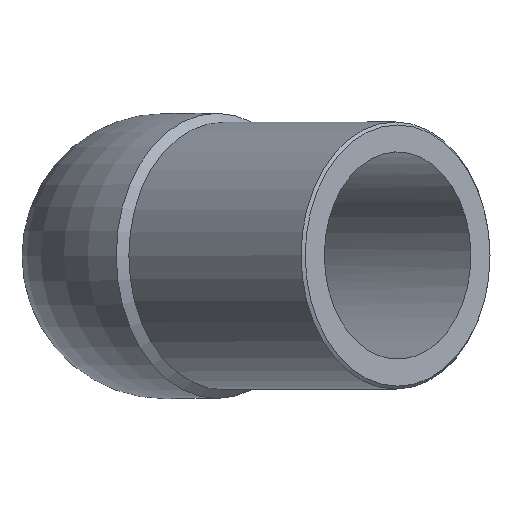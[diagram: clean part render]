
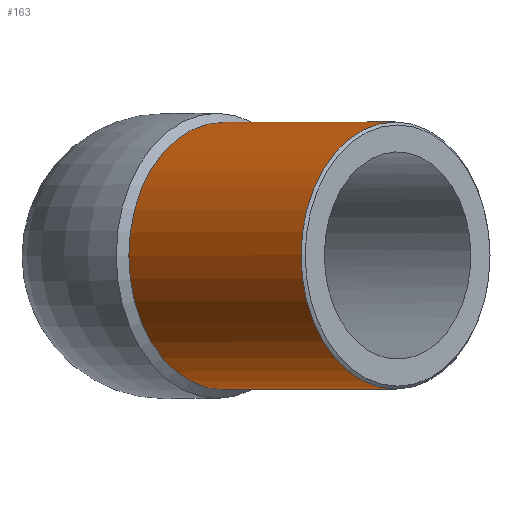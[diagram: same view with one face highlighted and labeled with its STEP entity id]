
A CAD part, top view. The second image highlights one B-rep face of the part: STEP entity #163.
In plain terms, the highlighted cylindrical face has radius 45 mm (diameter 90 mm), a full revolution.
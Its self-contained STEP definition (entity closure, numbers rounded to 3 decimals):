
#29=CYLINDRICAL_SURFACE('',#190,45.);
#35=ORIENTED_EDGE('',*,*,#69,.T.);
#36=ORIENTED_EDGE('',*,*,#67,.F.);
#67=EDGE_CURVE('',#84,#84,#100,.T.);
#69=EDGE_CURVE('',#86,#86,#102,.T.);
#84=VERTEX_POINT('',#267);
#86=VERTEX_POINT('',#272);
#100=CIRCLE('',#188,45.);
#102=CIRCLE('',#191,45.);
#114=EDGE_LOOP('',(#35));
#115=EDGE_LOOP('',(#36));
#137=FACE_BOUND('',#114,.T.);
#138=FACE_BOUND('',#115,.T.);
#163=ADVANCED_FACE('',(#137,#138),#29,.T.);
#188=AXIS2_PLACEMENT_3D('',#266,#216,#217);
#190=AXIS2_PLACEMENT_3D('',#270,#220,#221);
#191=AXIS2_PLACEMENT_3D('',#271,#222,#223);
#216=DIRECTION('',(-0.707,0.,-0.707));
#217=DIRECTION('',(-0.707,0.,0.707));
#220=DIRECTION('',(0.707,0.,0.707));
#221=DIRECTION('',(-0.707,0.,0.707));
#222=DIRECTION('',(-0.707,0.,-0.707));
#223=DIRECTION('',(-0.707,0.,0.707));
#266=CARTESIAN_POINT('',(19.799,0.,19.799));
#267=CARTESIAN_POINT('',(-12.021,0.,51.619));
#270=CARTESIAN_POINT('',(65.054,0.,65.054));
#271=CARTESIAN_POINT('',(77.782,0.,77.782));
#272=CARTESIAN_POINT('',(45.962,0.,109.602));
